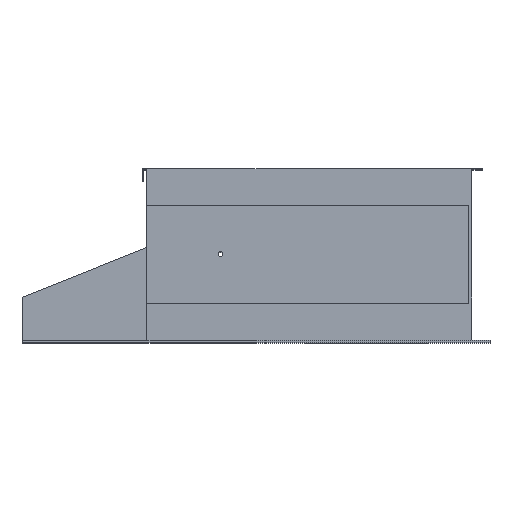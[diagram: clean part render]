
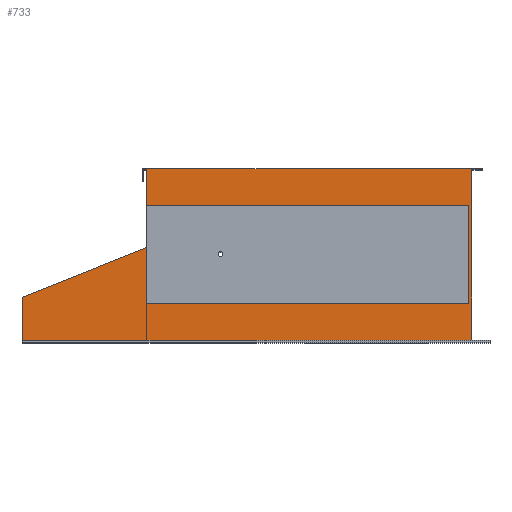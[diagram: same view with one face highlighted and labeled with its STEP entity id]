
A CAD part, top view. The second image highlights one B-rep face of the part: STEP entity #733.
In plain terms, the highlighted planar face has unit normal (0, 0, 1).
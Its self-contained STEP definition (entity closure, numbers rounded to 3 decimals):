
#421 = CARTESIAN_POINT ( 'NONE',  ( 913., 0., 443. ) ) ;
#493 = CARTESIAN_POINT ( 'NONE',  ( 0., 0., 443. ) ) ;
#733 = ADVANCED_FACE ( 'NONE', ( #15646 ), #39402, .T. ) ;
#1068 = CARTESIAN_POINT ( 'NONE',  ( 907., 79., 443. ) ) ;
#1487 = DIRECTION ( 'NONE',  ( 0., 1., 0. ) ) ;
#2274 = EDGE_CURVE ( 'NONE', #36461, #43618, #23917, .T. ) ;
#2641 = CARTESIAN_POINT ( 'NONE',  ( 253., 193.2, 443. ) ) ;
#3139 = VECTOR ( 'NONE', #14093, 1000. ) ;
#3982 = ORIENTED_EDGE ( 'NONE', *, *, #37973, .F. ) ;
#4910 = LINE ( 'NONE', #1068, #40783 ) ;
#5572 = EDGE_CURVE ( 'NONE', #45727, #17623, #6574, .T. ) ;
#5715 = VECTOR ( 'NONE', #10435, 1000. ) ;
#6439 = LINE ( 'NONE', #27270, #40865 ) ;
#6455 = DIRECTION ( 'NONE',  ( 1., 0., 0. ) ) ;
#6516 = ORIENTED_EDGE ( 'NONE', *, *, #9931, .F. ) ;
#6574 = LINE ( 'NONE', #40066, #42381 ) ;
#7230 = LINE ( 'NONE', #49690, #19409 ) ;
#7303 = LINE ( 'NONE', #8835, #29889 ) ;
#7495 = ORIENTED_EDGE ( 'NONE', *, *, #40282, .F. ) ;
#7621 = EDGE_CURVE ( 'NONE', #35975, #25672, #42574, .T. ) ;
#7891 = ORIENTED_EDGE ( 'NONE', *, *, #9453, .F. ) ;
#8093 = VERTEX_POINT ( 'NONE', #19491 ) ;
#8482 = DIRECTION ( 'NONE',  ( 0., -1., 0. ) ) ;
#8521 = CARTESIAN_POINT ( 'NONE',  ( 246.5, 0., 443. ) ) ;
#8656 = EDGE_CURVE ( 'NONE', #17424, #43618, #45931, .T. ) ;
#8835 = CARTESIAN_POINT ( 'NONE',  ( 253., 79., 443. ) ) ;
#8963 = CARTESIAN_POINT ( 'NONE',  ( 245., 353.5, 443. ) ) ;
#9453 = EDGE_CURVE ( 'NONE', #30944, #8093, #27156, .T. ) ;
#9603 = CARTESIAN_POINT ( 'NONE',  ( 935., 353.5, 443. ) ) ;
#9931 = EDGE_CURVE ( 'NONE', #43559, #16510, #7303, .T. ) ;
#10435 = DIRECTION ( 'NONE',  ( -0.928, -0.371, 0. ) ) ;
#10641 = DIRECTION ( 'NONE',  ( 1., 0., 0. ) ) ;
#10892 = ORIENTED_EDGE ( 'NONE', *, *, #33895, .F. ) ;
#12529 = DIRECTION ( 'NONE',  ( 1., 0., 0. ) ) ;
#13674 = EDGE_CURVE ( 'NONE', #30944, #41080, #43459, .T. ) ;
#13774 = VERTEX_POINT ( 'NONE', #14334 ) ;
#14093 = DIRECTION ( 'NONE',  ( 0., -1., 0. ) ) ;
#14334 = CARTESIAN_POINT ( 'NONE',  ( 0., 92., 443. ) ) ;
#15345 = LINE ( 'NONE', #45024, #3139 ) ;
#15646 = FACE_OUTER_BOUND ( 'NONE', #39510, .T. ) ;
#16510 = VERTEX_POINT ( 'NONE', #43815 ) ;
#16582 = ORIENTED_EDGE ( 'NONE', *, *, #53879, .F. ) ;
#16636 = CARTESIAN_POINT ( 'NONE',  ( 907., 279., 443. ) ) ;
#17179 = VECTOR ( 'NONE', #49677, 1000. ) ;
#17424 = VERTEX_POINT ( 'NONE', #16636 ) ;
#17623 = VERTEX_POINT ( 'NONE', #9603 ) ;
#18030 = DIRECTION ( 'NONE',  ( -1., 0., 0. ) ) ;
#18348 = CARTESIAN_POINT ( 'NONE',  ( 907., 279., 443. ) ) ;
#18443 = VECTOR ( 'NONE', #39726, 1000. ) ;
#18712 = DIRECTION ( 'NONE',  ( 0., 1., 0. ) ) ;
#18961 = VECTOR ( 'NONE', #10641, 1000. ) ;
#19409 = VECTOR ( 'NONE', #32136, 1000. ) ;
#19437 = CARTESIAN_POINT ( 'NONE',  ( 913., 351.791, 443. ) ) ;
#19491 = CARTESIAN_POINT ( 'NONE',  ( 245., 328.5, 443. ) ) ;
#20862 = ORIENTED_EDGE ( 'NONE', *, *, #2274, .T. ) ;
#22400 = VECTOR ( 'NONE', #27689, 1000. ) ;
#22572 = DIRECTION ( 'NONE',  ( 0., -1., 0. ) ) ;
#22586 = CARTESIAN_POINT ( 'NONE',  ( 0., 328.5, 443. ) ) ;
#22872 = VECTOR ( 'NONE', #12529, 1000. ) ;
#23702 = ORIENTED_EDGE ( 'NONE', *, *, #13674, .T. ) ;
#23917 = LINE ( 'NONE', #57910, #44668 ) ;
#24334 = EDGE_CURVE ( 'NONE', #41080, #36461, #47773, .T. ) ;
#25065 = EDGE_CURVE ( 'NONE', #43559, #13774, #53201, .T. ) ;
#25312 = CARTESIAN_POINT ( 'NONE',  ( 907., 79., 443. ) ) ;
#25672 = VERTEX_POINT ( 'NONE', #45122 ) ;
#26203 = CARTESIAN_POINT ( 'NONE',  ( 246.5, 351.791, 443. ) ) ;
#27156 = LINE ( 'NONE', #22586, #49293 ) ;
#27270 = CARTESIAN_POINT ( 'NONE',  ( 245., 0., 443. ) ) ;
#27566 = DIRECTION ( 'NONE',  ( 0., -1., 0. ) ) ;
#27689 = DIRECTION ( 'NONE',  ( -1., 0., 0. ) ) ;
#29176 = LINE ( 'NONE', #37542, #51259 ) ;
#29264 = CARTESIAN_POINT ( 'NONE',  ( 246.5, 328.5, 443. ) ) ;
#29432 = ORIENTED_EDGE ( 'NONE', *, *, #7621, .T. ) ;
#29889 = VECTOR ( 'NONE', #22572, 1000. ) ;
#30746 = CARTESIAN_POINT ( 'NONE',  ( 0., 351.791, 443. ) ) ;
#30944 = VERTEX_POINT ( 'NONE', #29264 ) ;
#31826 = ORIENTED_EDGE ( 'NONE', *, *, #40333, .T. ) ;
#31997 = ORIENTED_EDGE ( 'NONE', *, *, #24334, .T. ) ;
#32136 = DIRECTION ( 'NONE',  ( 1., 0., 0. ) ) ;
#33551 = CARTESIAN_POINT ( 'NONE',  ( 0., 5., 443. ) ) ;
#33676 = CARTESIAN_POINT ( 'NONE',  ( 253., 351.791, 443. ) ) ;
#33895 = EDGE_CURVE ( 'NONE', #17623, #25672, #15345, .T. ) ;
#34136 = CARTESIAN_POINT ( 'NONE',  ( 913., 5., 443. ) ) ;
#35975 = VERTEX_POINT ( 'NONE', #19437 ) ;
#36461 = VERTEX_POINT ( 'NONE', #33676 ) ;
#37201 = ORIENTED_EDGE ( 'NONE', *, *, #5572, .F. ) ;
#37542 = CARTESIAN_POINT ( 'NONE',  ( 907., 79., 443. ) ) ;
#37801 = DIRECTION ( 'NONE',  ( 1., 0., 0. ) ) ;
#37973 = EDGE_CURVE ( 'NONE', #43516, #17424, #29176, .T. ) ;
#37996 = DIRECTION ( 'NONE',  ( 0., 0., 1. ) ) ;
#38778 = CARTESIAN_POINT ( 'NONE',  ( 0., 0., 443. ) ) ;
#39402 = PLANE ( 'NONE',  #40811 ) ;
#39510 = EDGE_LOOP ( 'NONE', ( #31826, #52169, #46823, #29432, #10892, #37201, #7495, #7891, #23702, #31997, #20862, #39946, #3982, #16582, #6516, #54611 ) ) ;
#39726 = DIRECTION ( 'NONE',  ( 0., 1., 0. ) ) ;
#39946 = ORIENTED_EDGE ( 'NONE', *, *, #8656, .F. ) ;
#40066 = CARTESIAN_POINT ( 'NONE',  ( 0., 353.5, 443. ) ) ;
#40260 = DIRECTION ( 'NONE',  ( 1., 0., 0. ) ) ;
#40282 = EDGE_CURVE ( 'NONE', #8093, #45727, #6439, .T. ) ;
#40333 = EDGE_CURVE ( 'NONE', #13774, #52348, #42245, .T. ) ;
#40783 = VECTOR ( 'NONE', #6455, 1000. ) ;
#40811 = AXIS2_PLACEMENT_3D ( 'NONE', #38778, #37996, #37801 ) ;
#40865 = VECTOR ( 'NONE', #18712, 1000. ) ;
#41080 = VERTEX_POINT ( 'NONE', #26203 ) ;
#41724 = CARTESIAN_POINT ( 'NONE',  ( -31.724, 79.31, 443. ) ) ;
#42245 = LINE ( 'NONE', #493, #17179 ) ;
#42381 = VECTOR ( 'NONE', #40260, 1000. ) ;
#42574 = LINE ( 'NONE', #50371, #18961 ) ;
#43459 = LINE ( 'NONE', #8521, #18443 ) ;
#43516 = VERTEX_POINT ( 'NONE', #25312 ) ;
#43559 = VERTEX_POINT ( 'NONE', #2641 ) ;
#43618 = VERTEX_POINT ( 'NONE', #47911 ) ;
#43815 = CARTESIAN_POINT ( 'NONE',  ( 253., 79., 443. ) ) ;
#44668 = VECTOR ( 'NONE', #8482, 1000. ) ;
#45024 = CARTESIAN_POINT ( 'NONE',  ( 935., 0., 443. ) ) ;
#45122 = CARTESIAN_POINT ( 'NONE',  ( 935., 351.791, 443. ) ) ;
#45727 = VERTEX_POINT ( 'NONE', #8963 ) ;
#45931 = LINE ( 'NONE', #18348, #22400 ) ;
#46564 = EDGE_CURVE ( 'NONE', #35975, #52407, #50732, .T. ) ;
#46823 = ORIENTED_EDGE ( 'NONE', *, *, #46564, .F. ) ;
#47773 = LINE ( 'NONE', #30746, #22872 ) ;
#47911 = CARTESIAN_POINT ( 'NONE',  ( 253., 279., 443. ) ) ;
#49293 = VECTOR ( 'NONE', #18030, 1000. ) ;
#49677 = DIRECTION ( 'NONE',  ( 0., -1., 0. ) ) ;
#49690 = CARTESIAN_POINT ( 'NONE',  ( 0., 5., 443. ) ) ;
#50371 = CARTESIAN_POINT ( 'NONE',  ( 0., 351.791, 443. ) ) ;
#50732 = LINE ( 'NONE', #421, #52116 ) ;
#51012 = EDGE_CURVE ( 'NONE', #52348, #52407, #7230, .T. ) ;
#51259 = VECTOR ( 'NONE', #1487, 1000. ) ;
#52116 = VECTOR ( 'NONE', #27566, 1000. ) ;
#52169 = ORIENTED_EDGE ( 'NONE', *, *, #51012, .T. ) ;
#52348 = VERTEX_POINT ( 'NONE', #33551 ) ;
#52407 = VERTEX_POINT ( 'NONE', #34136 ) ;
#53201 = LINE ( 'NONE', #41724, #5715 ) ;
#53879 = EDGE_CURVE ( 'NONE', #16510, #43516, #4910, .T. ) ;
#54611 = ORIENTED_EDGE ( 'NONE', *, *, #25065, .T. ) ;
#57910 = CARTESIAN_POINT ( 'NONE',  ( 253., 0., 443. ) ) ;
